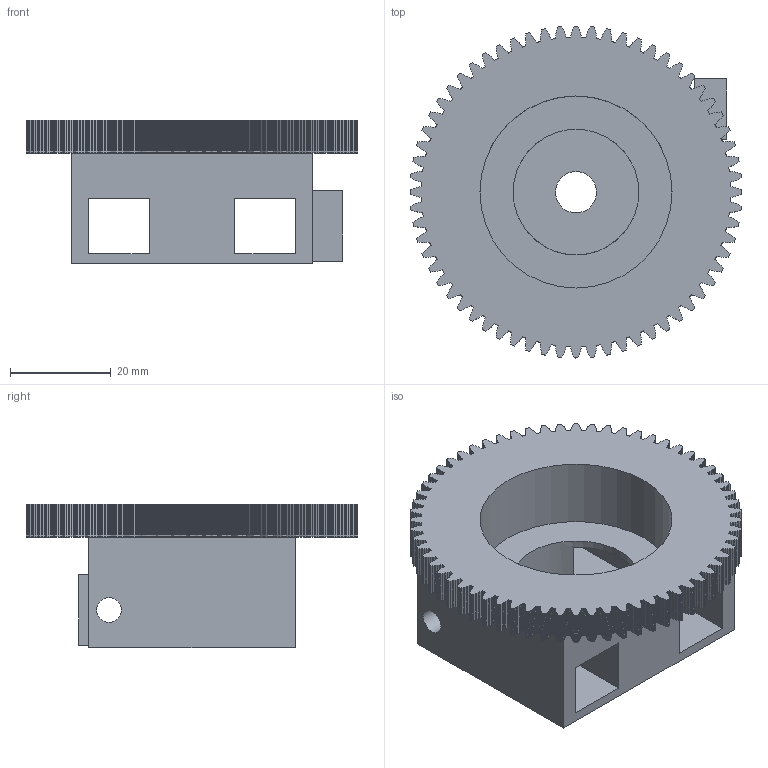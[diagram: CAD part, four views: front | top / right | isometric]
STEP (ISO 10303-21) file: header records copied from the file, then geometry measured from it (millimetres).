
FILE_DESCRIPTION(('Open CASCADE Model'),'2;1');
FILE_NAME('Open CASCADE Shape Model','2026-10-17T23:18:53',('Author'),( 'Open CASCADE'),'Open CASCADE STEP processor 7.9','Open CASCADE 7.9' ,'Unknown');
FILE_SCHEMA(('AUTOMOTIVE_DESIGN { 1 0 10303 214 1 1 1 1 }'));
Products named in the file (1): Open CASCADE STEP translator 7.9 9
Bounding box: 66 x 66 x 28.5 mm (x, y, z)
Volume: 32432.7 mm3; surface area: 18516.1 mm2
Topology: 1 solids, 1 shells, 1510 faces, 4534 edges, 3023 vertices
Faces by surface type: plane 1502, cylinder 8
Full cylindrical faces by diameter (mm): 3 x2, 4.9 x3, 8.2 x1, 25 x1
Entity records: 108823 total; most frequent: CARTESIAN_POINT 18333, DIRECTION 16525, LINE 13453, VECTOR 13453, ORIENTED_EDGE 9068, PCURVE 9068, DEFINITIONAL_REPRESENTATION 9068, EDGE_CURVE 4534
